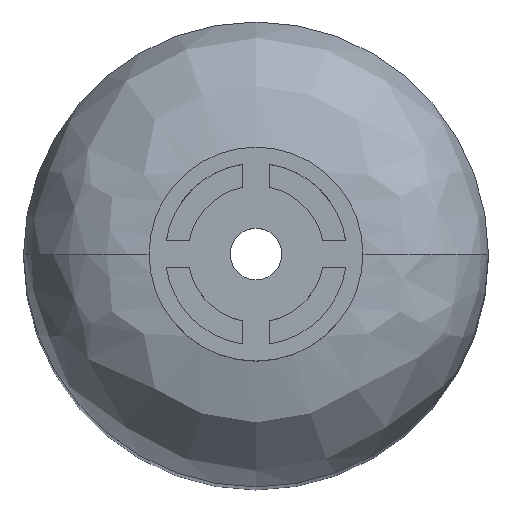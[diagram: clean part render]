
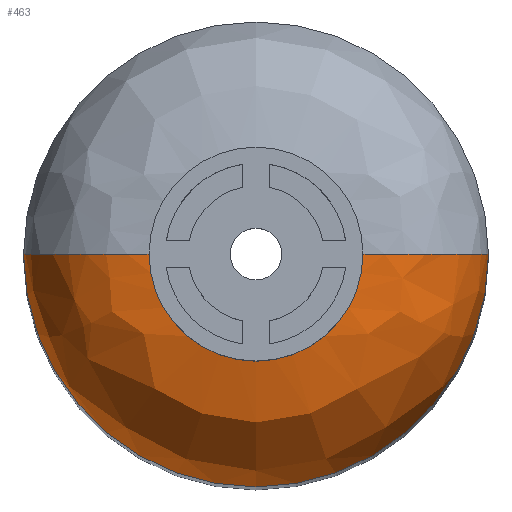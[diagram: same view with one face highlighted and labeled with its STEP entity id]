
A CAD part, top view. The second image highlights one B-rep face of the part: STEP entity #463.
In plain terms, the highlighted free-form (B-spline) face has degree [3, 3] with [4, 4] control points.
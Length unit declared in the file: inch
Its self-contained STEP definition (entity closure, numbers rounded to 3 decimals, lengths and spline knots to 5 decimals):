
#129 = ORIENTED_EDGE ( 'NONE', *, *, #295, .F. ) ;
#136 = EDGE_CURVE ( 'NONE', #1325, #715, #370, .T. ) ;
#180 = CIRCLE ( 'NONE', #866, 0.691 ) ;
#219 = DIRECTION ( 'NONE',  ( 1., 0., 0. ) ) ;
#231 = EDGE_CURVE ( 'NONE', #1325, #462, #253, .T. ) ;
#253 = CIRCLE ( 'NONE', #932, 0.589 ) ;
#294 = CARTESIAN_POINT ( 'NONE',  ( 0.589, -1.178, -0.332 ) ) ;
#295 = EDGE_CURVE ( 'NONE', #715, #525, #1003, .T. ) ;
#304 = CARTESIAN_POINT ( 'NONE',  ( -0.589, 0., -0.332 ) ) ;
#313 = DIRECTION ( 'NONE',  ( 0., 1., 0. ) ) ;
#370 = CIRCLE ( 'NONE', #1199, 0.691 ) ;
#391 = CARTESIAN_POINT ( 'NONE',  ( -0.589, 0., -0.332 ) ) ;
#441 = CARTESIAN_POINT ( 'NONE',  ( 0.589, 0., -1.023 ) ) ;
#458 = CARTESIAN_POINT ( 'NONE',  ( 0., 0., -1.023 ) ) ;
#462 = VERTEX_POINT ( 'NONE', #391 ) ;
#463 = ADVANCED_FACE ( 'NONE', ( #1107 ), #778, .T. ) ;
#525 = VERTEX_POINT ( 'NONE', #900 ) ;
#538 = CARTESIAN_POINT ( 'NONE',  ( 1.28, -2.56, -1.023 ) ) ;
#553 = CARTESIAN_POINT ( 'NONE',  ( 0.99378, 0., -0.332 ) ) ;
#657 = CARTESIAN_POINT ( 'NONE',  ( 1.28, -2.56, -0.61822 ) ) ;
#664 = DIRECTION ( 'NONE',  ( 0., -1., 0. ) ) ;
#673 = CARTESIAN_POINT ( 'NONE',  ( -0.589, -1.178, -0.332 ) ) ;
#715 = VERTEX_POINT ( 'NONE', #796 ) ;
#774 = CARTESIAN_POINT ( 'NONE',  ( -1.28, -2.56, -0.61822 ) ) ;
#778 =( BOUNDED_SURFACE ( )  B_SPLINE_SURFACE ( 3, 3, ( 
 ( #304, #673, #294, #920 ),
 ( #1135, #1501, #915, #553 ),
 ( #1369, #774, #657, #782 ),
 ( #1385, #1266, #538, #1010 ) ),
 .UNSPECIFIED., .F., .F., .F. ) 
 B_SPLINE_SURFACE_WITH_KNOTS ( ( 4, 4 ),
 ( 4, 4 ),
 ( 0., 1. ),
 ( 0., 1. ),
 .UNSPECIFIED. ) 
 GEOMETRIC_REPRESENTATION_ITEM ( )  RATIONAL_B_SPLINE_SURFACE ( (
 ( 1., 0.333, 0.333, 1.),
 ( 0.805, 0.268, 0.268, 0.805),
 ( 0.805, 0.268, 0.268, 0.805),
 ( 1., 0.333, 0.333, 1.) ) ) 
 REPRESENTATION_ITEM ( '' )  SURFACE ( )  );
#781 = DIRECTION ( 'NONE',  ( -1., 0., 0. ) ) ;
#782 = CARTESIAN_POINT ( 'NONE',  ( 1.28, 0., -0.61822 ) ) ;
#796 = CARTESIAN_POINT ( 'NONE',  ( 1.28, 0., -1.023 ) ) ;
#820 = CARTESIAN_POINT ( 'NONE',  ( 0., 0., -0.332 ) ) ;
#839 = ORIENTED_EDGE ( 'NONE', *, *, #136, .F. ) ;
#866 = AXIS2_PLACEMENT_3D ( 'NONE', #1346, #664, #781 ) ;
#900 = CARTESIAN_POINT ( 'NONE',  ( -1.28, 0., -1.023 ) ) ;
#915 = CARTESIAN_POINT ( 'NONE',  ( 0.99378, -1.98756, -0.332 ) ) ;
#918 = ORIENTED_EDGE ( 'NONE', *, *, #925, .T. ) ;
#920 = CARTESIAN_POINT ( 'NONE',  ( 0.589, 0., -0.332 ) ) ;
#925 = EDGE_CURVE ( 'NONE', #462, #525, #180, .T. ) ;
#932 = AXIS2_PLACEMENT_3D ( 'NONE', #820, #1042, #219 ) ;
#1003 = CIRCLE ( 'NONE', #1371, 1.28 ) ;
#1010 = CARTESIAN_POINT ( 'NONE',  ( 1.28, 0., -1.023 ) ) ;
#1022 = ORIENTED_EDGE ( 'NONE', *, *, #231, .T. ) ;
#1042 = DIRECTION ( 'NONE',  ( 0., 0., -1. ) ) ;
#1107 = FACE_OUTER_BOUND ( 'NONE', #1429, .T. ) ;
#1135 = CARTESIAN_POINT ( 'NONE',  ( -0.99378, 0., -0.332 ) ) ;
#1197 = DIRECTION ( 'NONE',  ( -1., 0., 0. ) ) ;
#1199 = AXIS2_PLACEMENT_3D ( 'NONE', #441, #313, #1273 ) ;
#1266 = CARTESIAN_POINT ( 'NONE',  ( -1.28, -2.56, -1.023 ) ) ;
#1273 = DIRECTION ( 'NONE',  ( 1., 0., 0. ) ) ;
#1325 = VERTEX_POINT ( 'NONE', #1541 ) ;
#1346 = CARTESIAN_POINT ( 'NONE',  ( -0.589, 0., -1.023 ) ) ;
#1369 = CARTESIAN_POINT ( 'NONE',  ( -1.28, 0., -0.61822 ) ) ;
#1371 = AXIS2_PLACEMENT_3D ( 'NONE', #458, #1536, #1197 ) ;
#1385 = CARTESIAN_POINT ( 'NONE',  ( -1.28, 0., -1.023 ) ) ;
#1429 = EDGE_LOOP ( 'NONE', ( #1022, #918, #129, #839 ) ) ;
#1501 = CARTESIAN_POINT ( 'NONE',  ( -0.99378, -1.98756, -0.332 ) ) ;
#1536 = DIRECTION ( 'NONE',  ( 0., 0., -1. ) ) ;
#1541 = CARTESIAN_POINT ( 'NONE',  ( 0.589, 0., -0.332 ) ) ;
